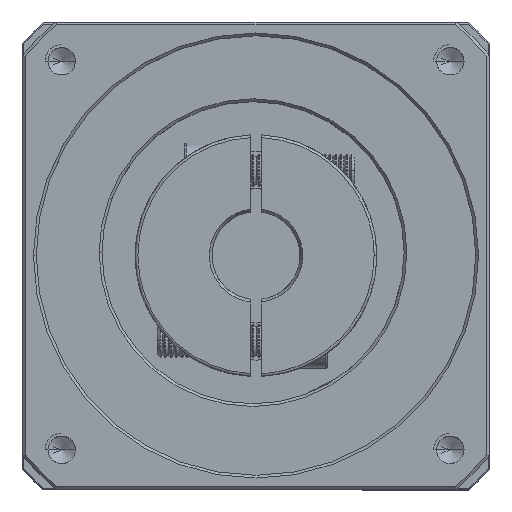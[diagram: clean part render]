
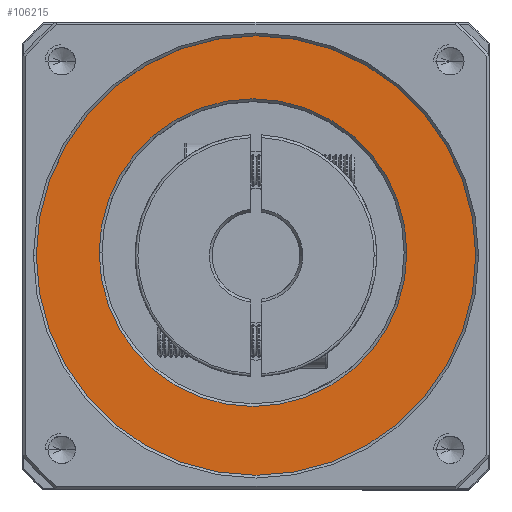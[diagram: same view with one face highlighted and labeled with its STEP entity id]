
A CAD part, top view. The second image highlights one B-rep face of the part: STEP entity #106215.
In plain terms, the highlighted planar face has unit normal (0, 0, 1).
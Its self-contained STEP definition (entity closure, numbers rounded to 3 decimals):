
#5108 = CARTESIAN_POINT ( 'NONE',  ( -100.153, 28.633, 30.066 ) ) ;
#8254 = ORIENTED_EDGE ( 'NONE', *, *, #31609, .T. ) ;
#9096 = CARTESIAN_POINT ( 'NONE',  ( -140.153, 28.633, 30.066 ) ) ;
#12429 = VERTEX_POINT ( 'NONE', #107006 ) ;
#13901 = DIRECTION ( 'NONE',  ( 1., 0., 0. ) ) ;
#16874 = DIRECTION ( 'NONE',  ( 0., 0., 1. ) ) ;
#22242 = EDGE_CURVE ( 'NONE', #61171, #12429, #39590, .T. ) ;
#29138 = CARTESIAN_POINT ( 'NONE',  ( -100.694, 29.168, 30.066 ) ) ;
#30616 = EDGE_LOOP ( 'NONE', ( #87376, #8254 ) ) ;
#31609 = EDGE_CURVE ( 'NONE', #59739, #69429, #71204, .T. ) ;
#34123 = PLANE ( 'NONE',  #94075 ) ;
#36431 = EDGE_LOOP ( 'NONE', ( #38422, #95527 ) ) ;
#37947 = DIRECTION ( 'NONE',  ( 1., 0., 0. ) ) ;
#38422 = ORIENTED_EDGE ( 'NONE', *, *, #22242, .T. ) ;
#39590 = CIRCLE ( 'NONE', #70465, 28. ) ;
#42046 = AXIS2_PLACEMENT_3D ( 'NONE', #99999, #48072, #108598 ) ;
#42690 = AXIS2_PLACEMENT_3D ( 'NONE', #29138, #90081, #37947 ) ;
#45066 = DIRECTION ( 'NONE',  ( 0., 0., -1. ) ) ;
#48072 = DIRECTION ( 'NONE',  ( 0., 0., 1. ) ) ;
#58036 = CARTESIAN_POINT ( 'NONE',  ( -60.153, 28.633, 30.066 ) ) ;
#59739 = VERTEX_POINT ( 'NONE', #9096 ) ;
#61171 = VERTEX_POINT ( 'NONE', #81285 ) ;
#66344 = DIRECTION ( 'NONE',  ( 0., 0., 1. ) ) ;
#69267 = CARTESIAN_POINT ( 'NONE',  ( -100.153, 28.633, 30.066 ) ) ;
#69429 = VERTEX_POINT ( 'NONE', #58036 ) ;
#70465 = AXIS2_PLACEMENT_3D ( 'NONE', #97057, #45066, #105704 ) ;
#71204 = CIRCLE ( 'NONE', #108225, 40. ) ;
#71714 = EDGE_CURVE ( 'NONE', #12429, #61171, #91651, .T. ) ;
#77967 = DIRECTION ( 'NONE',  ( 1., 0., 0. ) ) ;
#81285 = CARTESIAN_POINT ( 'NONE',  ( -72.694, 29.168, 30.066 ) ) ;
#83097 = CIRCLE ( 'NONE', #42046, 40. ) ;
#86518 = FACE_OUTER_BOUND ( 'NONE', #30616, .T. ) ;
#87376 = ORIENTED_EDGE ( 'NONE', *, *, #102842, .T. ) ;
#89200 = FACE_BOUND ( 'NONE', #36431, .T. ) ;
#90081 = DIRECTION ( 'NONE',  ( 0., 0., -1. ) ) ;
#91651 = CIRCLE ( 'NONE', #42690, 28. ) ;
#94075 = AXIS2_PLACEMENT_3D ( 'NONE', #69267, #16874, #77967 ) ;
#95527 = ORIENTED_EDGE ( 'NONE', *, *, #71714, .T. ) ;
#97057 = CARTESIAN_POINT ( 'NONE',  ( -100.694, 29.168, 30.066 ) ) ;
#99999 = CARTESIAN_POINT ( 'NONE',  ( -100.153, 28.633, 30.066 ) ) ;
#102842 = EDGE_CURVE ( 'NONE', #69429, #59739, #83097, .T. ) ;
#105704 = DIRECTION ( 'NONE',  ( 1., 0., 0. ) ) ;
#106215 = ADVANCED_FACE ( 'NONE', ( #86518, #89200 ), #34123, .T. ) ;
#107006 = CARTESIAN_POINT ( 'NONE',  ( -128.694, 29.168, 30.066 ) ) ;
#108225 = AXIS2_PLACEMENT_3D ( 'NONE', #5108, #66344, #13901 ) ;
#108598 = DIRECTION ( 'NONE',  ( 1., 0., 0. ) ) ;
